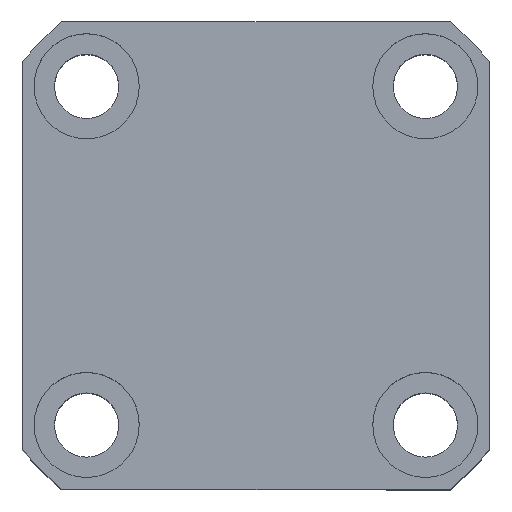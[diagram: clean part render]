
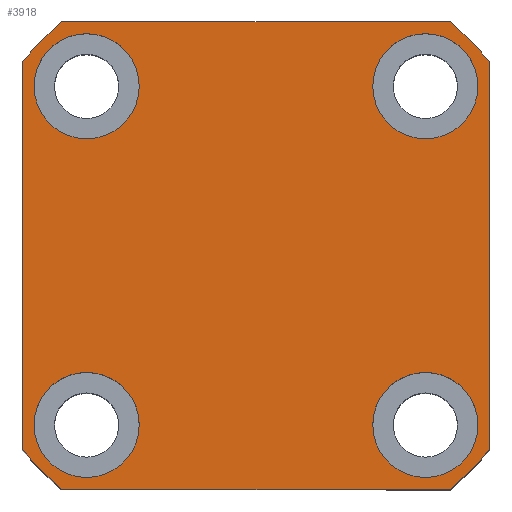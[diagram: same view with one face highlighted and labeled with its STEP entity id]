
A CAD part, top view. The second image highlights one B-rep face of the part: STEP entity #3918.
In plain terms, the highlighted planar face has unit normal (0, 0, 1).
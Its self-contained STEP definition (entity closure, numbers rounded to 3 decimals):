
#9 = EDGE_CURVE ( 'NONE', #3317, #8089, #7031, .T. ) ;
#76 = VERTEX_POINT ( 'NONE', #9331 ) ;
#287 = VERTEX_POINT ( 'NONE', #8849 ) ;
#317 = DIRECTION ( 'NONE',  ( 0., 0., 1. ) ) ;
#335 = VERTEX_POINT ( 'NONE', #3025 ) ;
#342 = AXIS2_PLACEMENT_3D ( 'NONE', #6821, #8505, #5150 ) ;
#567 = DIRECTION ( 'NONE',  ( 0., 0., 1. ) ) ;
#570 = EDGE_LOOP ( 'NONE', ( #3852, #1753 ) ) ;
#576 = ORIENTED_EDGE ( 'NONE', *, *, #9232, .F. ) ;
#731 = CARTESIAN_POINT ( 'NONE',  ( 29., 29., 40. ) ) ;
#945 = EDGE_LOOP ( 'NONE', ( #4745, #7264, #10669, #5820, #3842, #2830, #1640, #9878 ) ) ;
#954 = PLANE ( 'NONE',  #342 ) ;
#1036 = CARTESIAN_POINT ( 'NONE',  ( 0., 0., 40. ) ) ;
#1112 = CARTESIAN_POINT ( 'NONE',  ( 29., -29., 40. ) ) ;
#1120 = DIRECTION ( 'NONE',  ( 1., 0., 0. ) ) ;
#1331 = EDGE_LOOP ( 'NONE', ( #8028, #576 ) ) ;
#1397 = CARTESIAN_POINT ( 'NONE',  ( -38., -29., 40. ) ) ;
#1569 = DIRECTION ( 'NONE',  ( 0., 0., 1. ) ) ;
#1570 = EDGE_CURVE ( 'NONE', #6324, #2107, #7711, .T. ) ;
#1594 = AXIS2_PLACEMENT_3D ( 'NONE', #5240, #317, #1120 ) ;
#1623 = EDGE_CURVE ( 'NONE', #6853, #9505, #10856, .T. ) ;
#1640 = ORIENTED_EDGE ( 'NONE', *, *, #1623, .T. ) ;
#1683 = DIRECTION ( 'NONE',  ( 0., 0., 1. ) ) ;
#1719 = CARTESIAN_POINT ( 'NONE',  ( -29., -29., 40. ) ) ;
#1730 = DIRECTION ( 'NONE',  ( 0., 0., 1. ) ) ;
#1753 = ORIENTED_EDGE ( 'NONE', *, *, #4456, .F. ) ;
#1851 = DIRECTION ( 'NONE',  ( 0., 0., 1. ) ) ;
#1924 = AXIS2_PLACEMENT_3D ( 'NONE', #10298, #10260, #5208 ) ;
#1952 = CIRCLE ( 'NONE', #5207, 52. ) ;
#1965 = EDGE_CURVE ( 'NONE', #2637, #335, #2979, .T. ) ;
#1967 = CARTESIAN_POINT ( 'NONE',  ( -29., 29., 40. ) ) ;
#1980 = LINE ( 'NONE', #8663, #3306 ) ;
#1993 = DIRECTION ( 'NONE',  ( 0., -1., 0. ) ) ;
#2038 = CARTESIAN_POINT ( 'NONE',  ( -20., 29., 40. ) ) ;
#2107 = VERTEX_POINT ( 'NONE', #6858 ) ;
#2117 = FACE_OUTER_BOUND ( 'NONE', #945, .T. ) ;
#2257 = FACE_BOUND ( 'NONE', #10154, .T. ) ;
#2376 = CIRCLE ( 'NONE', #1594, 9. ) ;
#2406 = DIRECTION ( 'NONE',  ( 1., 0., 0. ) ) ;
#2478 = DIRECTION ( 'NONE',  ( 1., 0., 0. ) ) ;
#2554 = EDGE_CURVE ( 'NONE', #3987, #6524, #4270, .T. ) ;
#2637 = VERTEX_POINT ( 'NONE', #6124 ) ;
#2682 = EDGE_CURVE ( 'NONE', #4634, #76, #3112, .T. ) ;
#2735 = CARTESIAN_POINT ( 'NONE',  ( -40., 33.226, 40. ) ) ;
#2830 = ORIENTED_EDGE ( 'NONE', *, *, #6906, .T. ) ;
#2979 = CIRCLE ( 'NONE', #9054, 9. ) ;
#3025 = CARTESIAN_POINT ( 'NONE',  ( 20., 29., 40. ) ) ;
#3112 = CIRCLE ( 'NONE', #3221, 52. ) ;
#3221 = AXIS2_PLACEMENT_3D ( 'NONE', #1036, #6975, #4354 ) ;
#3276 = CARTESIAN_POINT ( 'NONE',  ( 33.226, 40., 40. ) ) ;
#3288 = LINE ( 'NONE', #5223, #9314 ) ;
#3306 = VECTOR ( 'NONE', #1993, 1000. ) ;
#3317 = VERTEX_POINT ( 'NONE', #9797 ) ;
#3321 = CARTESIAN_POINT ( 'NONE',  ( -38., 29., 40. ) ) ;
#3414 = CARTESIAN_POINT ( 'NONE',  ( -29., 29., 40. ) ) ;
#3443 = EDGE_CURVE ( 'NONE', #6524, #3987, #6719, .T. ) ;
#3842 = ORIENTED_EDGE ( 'NONE', *, *, #1570, .T. ) ;
#3852 = ORIENTED_EDGE ( 'NONE', *, *, #1965, .F. ) ;
#3918 = ADVANCED_FACE ( 'NONE', ( #4593, #10008, #2257, #6588, #2117 ), #954, .T. ) ;
#3987 = VERTEX_POINT ( 'NONE', #2038 ) ;
#4008 = DIRECTION ( 'NONE',  ( -1., 0., 0. ) ) ;
#4119 = EDGE_CURVE ( 'NONE', #5382, #4634, #1980, .T. ) ;
#4178 = DIRECTION ( 'NONE',  ( 1., 0., 0. ) ) ;
#4270 = CIRCLE ( 'NONE', #8485, 9. ) ;
#4286 = DIRECTION ( 'NONE',  ( 0., 0., 1. ) ) ;
#4354 = DIRECTION ( 'NONE',  ( 1., 0., 0. ) ) ;
#4426 = AXIS2_PLACEMENT_3D ( 'NONE', #1719, #1851, #5172 ) ;
#4456 = EDGE_CURVE ( 'NONE', #335, #2637, #9077, .T. ) ;
#4482 = DIRECTION ( 'NONE',  ( 1., 0., 0. ) ) ;
#4515 = ORIENTED_EDGE ( 'NONE', *, *, #3443, .F. ) ;
#4560 = VECTOR ( 'NONE', #8941, 1000. ) ;
#4592 = CARTESIAN_POINT ( 'NONE',  ( 40., 33.226, 40. ) ) ;
#4593 = FACE_BOUND ( 'NONE', #1331, .T. ) ;
#4634 = VERTEX_POINT ( 'NONE', #8516 ) ;
#4745 = ORIENTED_EDGE ( 'NONE', *, *, #6709, .T. ) ;
#4877 = CARTESIAN_POINT ( 'NONE',  ( 0., 0., 40. ) ) ;
#4888 = DIRECTION ( 'NONE',  ( 0., 0., 1. ) ) ;
#4987 = CARTESIAN_POINT ( 'NONE',  ( 0., 0., 40. ) ) ;
#5081 = CIRCLE ( 'NONE', #4426, 9. ) ;
#5150 = DIRECTION ( 'NONE',  ( 1., 0., 0. ) ) ;
#5172 = DIRECTION ( 'NONE',  ( 1., 0., 0. ) ) ;
#5207 = AXIS2_PLACEMENT_3D ( 'NONE', #4877, #567, #6385 ) ;
#5208 = DIRECTION ( 'NONE',  ( 1., 0., 0. ) ) ;
#5223 = CARTESIAN_POINT ( 'NONE',  ( -33.226, -40., 40. ) ) ;
#5240 = CARTESIAN_POINT ( 'NONE',  ( -29., -29., 40. ) ) ;
#5292 = CARTESIAN_POINT ( 'NONE',  ( 20., -29., 40. ) ) ;
#5382 = VERTEX_POINT ( 'NONE', #2735 ) ;
#5467 = EDGE_CURVE ( 'NONE', #7790, #10185, #2376, .T. ) ;
#5604 = AXIS2_PLACEMENT_3D ( 'NONE', #1967, #10368, #4482 ) ;
#5733 = DIRECTION ( 'NONE',  ( 1., 0., 0. ) ) ;
#5820 = ORIENTED_EDGE ( 'NONE', *, *, #5976, .T. ) ;
#5976 = EDGE_CURVE ( 'NONE', #76, #6324, #3288, .T. ) ;
#6075 = DIRECTION ( 'NONE',  ( 1., 0., 0. ) ) ;
#6124 = CARTESIAN_POINT ( 'NONE',  ( 38., 29., 40. ) ) ;
#6292 = CIRCLE ( 'NONE', #10234, 9. ) ;
#6324 = VERTEX_POINT ( 'NONE', #9340 ) ;
#6344 = AXIS2_PLACEMENT_3D ( 'NONE', #4987, #1569, #2406 ) ;
#6385 = DIRECTION ( 'NONE',  ( 1., 0., 0. ) ) ;
#6524 = VERTEX_POINT ( 'NONE', #3321 ) ;
#6588 = FACE_BOUND ( 'NONE', #570, .T. ) ;
#6601 = ORIENTED_EDGE ( 'NONE', *, *, #8512, .F. ) ;
#6709 = EDGE_CURVE ( 'NONE', #287, #5382, #1952, .T. ) ;
#6719 = CIRCLE ( 'NONE', #5604, 9. ) ;
#6821 = CARTESIAN_POINT ( 'NONE',  ( 0., 0., 40. ) ) ;
#6853 = VERTEX_POINT ( 'NONE', #9691 ) ;
#6858 = CARTESIAN_POINT ( 'NONE',  ( 40., -33.226, 40. ) ) ;
#6906 = EDGE_CURVE ( 'NONE', #2107, #6853, #9978, .T. ) ;
#6975 = DIRECTION ( 'NONE',  ( 0., 0., 1. ) ) ;
#6979 = DIRECTION ( 'NONE',  ( 0., 0., 1. ) ) ;
#7031 = CIRCLE ( 'NONE', #1924, 9. ) ;
#7057 = DIRECTION ( 'NONE',  ( 1., 0., 0. ) ) ;
#7120 = CARTESIAN_POINT ( 'NONE',  ( -20., -29., 40. ) ) ;
#7264 = ORIENTED_EDGE ( 'NONE', *, *, #4119, .T. ) ;
#7711 = CIRCLE ( 'NONE', #6344, 52. ) ;
#7790 = VERTEX_POINT ( 'NONE', #1397 ) ;
#7922 = EDGE_LOOP ( 'NONE', ( #6601, #10510 ) ) ;
#7977 = VECTOR ( 'NONE', #4008, 1000. ) ;
#8028 = ORIENTED_EDGE ( 'NONE', *, *, #9, .F. ) ;
#8089 = VERTEX_POINT ( 'NONE', #5292 ) ;
#8142 = CARTESIAN_POINT ( 'NONE',  ( -33.226, 40., 40. ) ) ;
#8154 = EDGE_CURVE ( 'NONE', #9505, #287, #8388, .T. ) ;
#8265 = AXIS2_PLACEMENT_3D ( 'NONE', #9965, #4888, #5733 ) ;
#8375 = CARTESIAN_POINT ( 'NONE',  ( 29., 29., 40. ) ) ;
#8388 = LINE ( 'NONE', #8142, #7977 ) ;
#8485 = AXIS2_PLACEMENT_3D ( 'NONE', #3414, #4286, #4178 ) ;
#8505 = DIRECTION ( 'NONE',  ( 0., 0., 1. ) ) ;
#8512 = EDGE_CURVE ( 'NONE', #10185, #7790, #5081, .T. ) ;
#8516 = CARTESIAN_POINT ( 'NONE',  ( -40., -33.226, 40. ) ) ;
#8663 = CARTESIAN_POINT ( 'NONE',  ( -40., 33.226, 40. ) ) ;
#8849 = CARTESIAN_POINT ( 'NONE',  ( -33.226, 40., 40. ) ) ;
#8941 = DIRECTION ( 'NONE',  ( 0., 1., 0. ) ) ;
#9054 = AXIS2_PLACEMENT_3D ( 'NONE', #8375, #1730, #2478 ) ;
#9077 = CIRCLE ( 'NONE', #10237, 9. ) ;
#9186 = DIRECTION ( 'NONE',  ( 1., 0., 0. ) ) ;
#9232 = EDGE_CURVE ( 'NONE', #8089, #3317, #6292, .T. ) ;
#9314 = VECTOR ( 'NONE', #6075, 1000. ) ;
#9331 = CARTESIAN_POINT ( 'NONE',  ( -33.226, -40., 40. ) ) ;
#9340 = CARTESIAN_POINT ( 'NONE',  ( 33.226, -40., 40. ) ) ;
#9505 = VERTEX_POINT ( 'NONE', #3276 ) ;
#9691 = CARTESIAN_POINT ( 'NONE',  ( 40., 33.226, 40. ) ) ;
#9797 = CARTESIAN_POINT ( 'NONE',  ( 38., -29., 40. ) ) ;
#9878 = ORIENTED_EDGE ( 'NONE', *, *, #8154, .T. ) ;
#9965 = CARTESIAN_POINT ( 'NONE',  ( 0., 0., 40. ) ) ;
#9978 = LINE ( 'NONE', #4592, #4560 ) ;
#10008 = FACE_BOUND ( 'NONE', #7922, .T. ) ;
#10154 = EDGE_LOOP ( 'NONE', ( #10737, #4515 ) ) ;
#10185 = VERTEX_POINT ( 'NONE', #7120 ) ;
#10234 = AXIS2_PLACEMENT_3D ( 'NONE', #1112, #6979, #7057 ) ;
#10237 = AXIS2_PLACEMENT_3D ( 'NONE', #731, #1683, #9186 ) ;
#10260 = DIRECTION ( 'NONE',  ( 0., 0., 1. ) ) ;
#10298 = CARTESIAN_POINT ( 'NONE',  ( 29., -29., 40. ) ) ;
#10368 = DIRECTION ( 'NONE',  ( 0., 0., 1. ) ) ;
#10510 = ORIENTED_EDGE ( 'NONE', *, *, #5467, .F. ) ;
#10669 = ORIENTED_EDGE ( 'NONE', *, *, #2682, .T. ) ;
#10737 = ORIENTED_EDGE ( 'NONE', *, *, #2554, .F. ) ;
#10856 = CIRCLE ( 'NONE', #8265, 52. ) ;
